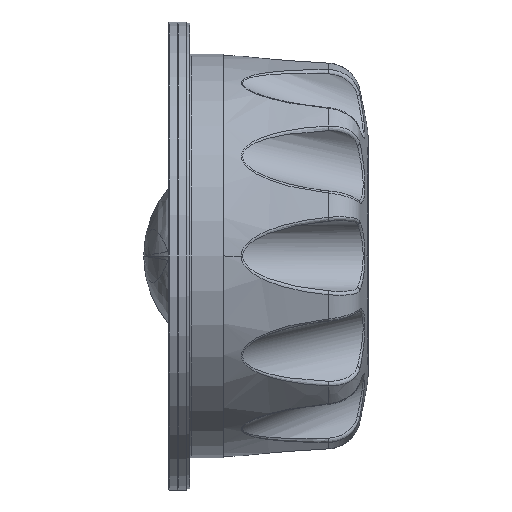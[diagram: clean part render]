
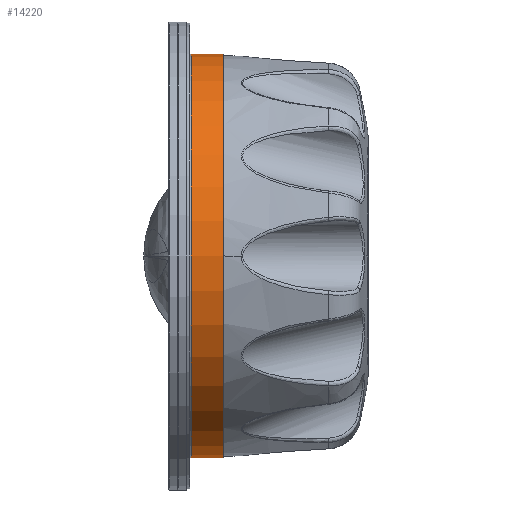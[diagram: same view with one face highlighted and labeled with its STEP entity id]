
A CAD part, left-side view. The second image highlights one B-rep face of the part: STEP entity #14220.
In plain terms, the highlighted cylindrical face has radius 90.5 mm (diameter 181 mm), a partial arc.
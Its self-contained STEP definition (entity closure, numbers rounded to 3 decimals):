
#1146 = DIRECTION ( 'NONE',  ( 0., 1., 0. ) ) ;
#2743 = EDGE_CURVE ( 'NONE', #30175, #48670, #56375, .T. ) ;
#3781 = DIRECTION ( 'NONE',  ( 0., 1., 0. ) ) ;
#4669 = CARTESIAN_POINT ( 'NONE',  ( 0., 96.5, 0. ) ) ;
#6403 = VECTOR ( 'NONE', #16239, 1000. ) ;
#7027 = CARTESIAN_POINT ( 'NONE',  ( 0., 49.5, 90.5 ) ) ;
#8077 = EDGE_CURVE ( 'NONE', #53755, #48670, #12055, .T. ) ;
#10484 = DIRECTION ( 'NONE',  ( 0., 0., 1. ) ) ;
#11455 = CARTESIAN_POINT ( 'NONE',  ( 0., 49.5, -90.5 ) ) ;
#12055 = CIRCLE ( 'NONE', #19525, 90.5 ) ;
#12478 = CIRCLE ( 'NONE', #42366, 90.5 ) ;
#14220 = ADVANCED_FACE ( 'NONE', ( #35662 ), #17828, .T. ) ;
#15587 = CARTESIAN_POINT ( 'NONE',  ( 0., 96.5, -90.5 ) ) ;
#16239 = DIRECTION ( 'NONE',  ( 0., 1., 0. ) ) ;
#16934 = DIRECTION ( 'NONE',  ( 0., 0., 1. ) ) ;
#17828 = CYLINDRICAL_SURFACE ( 'NONE', #40257, 90.5 ) ;
#19525 = AXIS2_PLACEMENT_3D ( 'NONE', #30747, #54200, #21982 ) ;
#21982 = DIRECTION ( 'NONE',  ( 0., 0., 1. ) ) ;
#28769 = ORIENTED_EDGE ( 'NONE', *, *, #2743, .T. ) ;
#29991 = EDGE_CURVE ( 'NONE', #39795, #53755, #55740, .T. ) ;
#30175 = VERTEX_POINT ( 'NONE', #50625 ) ;
#30747 = CARTESIAN_POINT ( 'NONE',  ( 0., 49.5, 0. ) ) ;
#33449 = DIRECTION ( 'NONE',  ( 0., 1., 0. ) ) ;
#35662 = FACE_OUTER_BOUND ( 'NONE', #49236, .T. ) ;
#39795 = VERTEX_POINT ( 'NONE', #51852 ) ;
#40257 = AXIS2_PLACEMENT_3D ( 'NONE', #4669, #1146, #10484 ) ;
#42366 = AXIS2_PLACEMENT_3D ( 'NONE', #57074, #3781, #16934 ) ;
#42884 = CARTESIAN_POINT ( 'NONE',  ( 0., 96.5, 90.5 ) ) ;
#46817 = EDGE_CURVE ( 'NONE', #39795, #30175, #12478, .T. ) ;
#47824 = ORIENTED_EDGE ( 'NONE', *, *, #29991, .F. ) ;
#48419 = VECTOR ( 'NONE', #33449, 1000. ) ;
#48670 = VERTEX_POINT ( 'NONE', #7027 ) ;
#49236 = EDGE_LOOP ( 'NONE', ( #47824, #54445, #28769, #49485 ) ) ;
#49485 = ORIENTED_EDGE ( 'NONE', *, *, #8077, .F. ) ;
#50625 = CARTESIAN_POINT ( 'NONE',  ( 0., 35., 90.5 ) ) ;
#51852 = CARTESIAN_POINT ( 'NONE',  ( 0., 35., -90.5 ) ) ;
#53755 = VERTEX_POINT ( 'NONE', #11455 ) ;
#54200 = DIRECTION ( 'NONE',  ( 0., 1., 0. ) ) ;
#54445 = ORIENTED_EDGE ( 'NONE', *, *, #46817, .T. ) ;
#55740 = LINE ( 'NONE', #15587, #48419 ) ;
#56375 = LINE ( 'NONE', #42884, #6403 ) ;
#57074 = CARTESIAN_POINT ( 'NONE',  ( 0., 35., 0. ) ) ;
